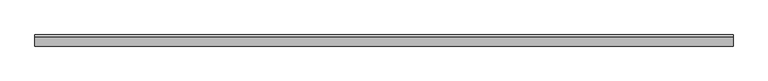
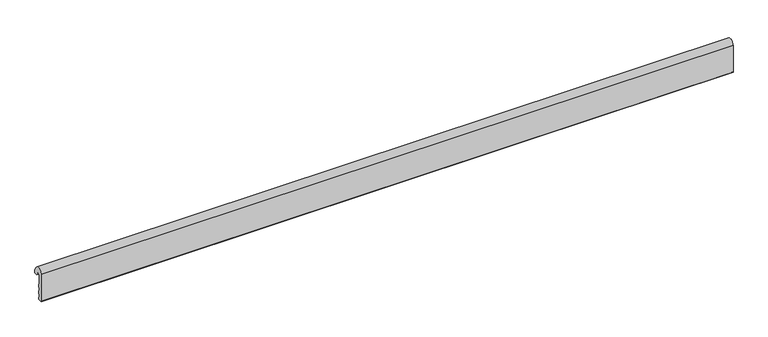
"""IFC4 building model written with IfcOpenShell, lengths in millimetres: proxy geometry, Muestra 2.5m 971 : Muestra 2.5m 971."""

from ifc_helpers import new_model, si_unit, point, frame, frame_2d, origin, place, context, project, spatial, polyline, circle_curve, trimmed, segment, composite_curve, outline, extrude, source, transform, mapped, element, save


def generic_models_8f0458ef(model_context):
    return source(origin(), model_context, "Body", "SweptSolid", [
        extrude(outline(composite_curve([segment(trimmed(circle_curve(frame_2d((24591.0071476, 223.5280231)), 16.9196478), [point((24574.1542243, 225.0291752))], [point((24605.3393652, 232.5203544))], False, "CARTESIAN"), True, "CONTINUOUS"), segment(polyline([(24605.3393652, 232.5203544), (24614.1518206, 218.8843466), (24614.1518206, 207.0470931), (24602.7141397, 207.0470931), (24596.8657117, 216.3375558)]), True, "CONTINUOUS"), segment(trimmed(circle_curve(frame_2d((24592.9153723, 214.2285702)), 4.4780578), [point((24596.8657117, 216.3375558))], [point((24588.5023916, 214.9892298))], True, "CARTESIAN"), True, "CONTINUOUS"), segment(polyline([(24588.5023916, 214.9892298), (24588.5023916, 192.4250835)]), True, "CONTINUOUS"), segment(trimmed(circle_curve(frame_2d((24595.5155714, 185.946852)), 9.5473648), [point((24588.5023916, 192.4250835))], [point((24589.070888, 178.9028312))], True, "CARTESIAN"), True, "CONTINUOUS"), segment(polyline([(24589.070888, 178.9028312), (24589.070888, 167.5977778)]), True, "CONTINUOUS"), segment(trimmed(circle_curve(frame_2d((24595.505328, 160.6761937)), 9.450415), [point((24589.070888, 167.5977778))], [point((24589.1156966, 153.7132235))], True, "CARTESIAN"), True, "CONTINUOUS"), segment(polyline([(24589.1156966, 153.7132235), (24589.1156966, 142.4081701)]), True, "CONTINUOUS"), segment(trimmed(circle_curve(frame_2d((24595.5501366, 135.486586)), 9.450415), [point((24589.1156966, 142.4081701))], [point((24589.1605052, 128.5236158))], True, "CARTESIAN"), True, "CONTINUOUS"), segment(polyline([(24589.1605052, 128.5236158), (24589.1605052, 120.2411632), (24576.8342243, 120.2411632)]), True, "CONTINUOUS"), segment(trimmed(circle_curve(frame_2d((24576.8342243, 122.9211632)), 2.68), [point((24576.8342243, 120.2411632))], [point((24574.1542243, 122.9211632))], False, "CARTESIAN"), True, "CONTINUOUS"), segment(polyline([(24574.1542243, 122.9211632), (24574.1542243, 225.0291752)]), True, "CONTINUOUS")], self_intersect=False)), frame((48470.0005841, 0.0, 0.0), z_axis=(1.0, 0.0, 0.0), x_axis=(0.0, 1.0, 0.0)), (0.0, 0.0, 1.0), 2500.0),
    ])


if __name__ == "__main__":
    model = new_model("IFC4")
    model_context = context("Model", 3, world=origin())
    ifc_project = project(units=[si_unit("LENGTHUNIT", "METRE", prefix="MILLI")], contexts=[model_context])
    site = spatial("IfcSite", under=ifc_project)
    building = spatial("IfcBuilding", under=site)
    placement = place(None, origin())
    generic_models_shape = generic_models_8f0458ef(model_context)
    element("IfcBuildingElementProxy", 1, Name="Muestra 2.5m 971 : Muestra 2.5m 971", ObjectType="Muestra 2.5m 971 : Muestra 2.5m 971", at=placement, inside=building, context=model_context, shape_type="MappedRepresentation", body=[
        mapped(generic_models_shape, transform((0.0, 0.0, 0.0), x_axis=(1.0, 0.0, 0.0), y_axis=(0.0, 1.0, 0.0), z_axis=(0.0, 0.0, 1.0))),
    ])
    save(model, "model.ifc")
